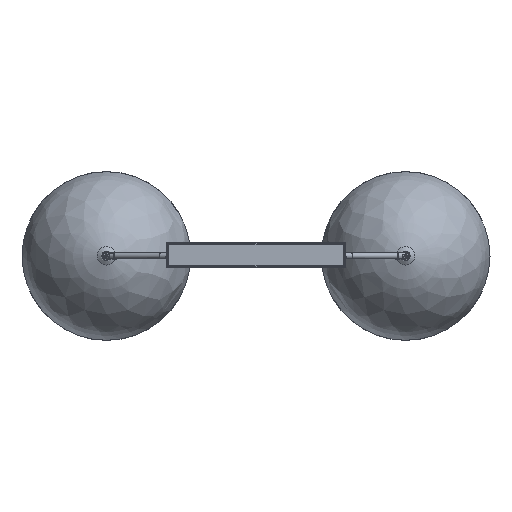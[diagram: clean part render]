
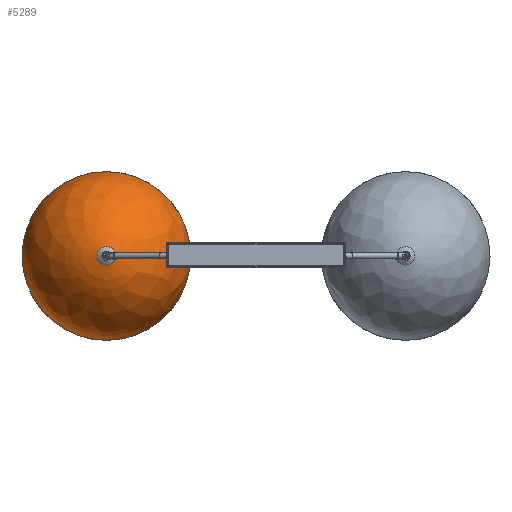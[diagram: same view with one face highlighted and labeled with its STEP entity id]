
A CAD part, top view. The second image highlights one B-rep face of the part: STEP entity #5289.
In plain terms, the highlighted free-form (B-spline) face has degree [2, 2] with [3, 9] control points.
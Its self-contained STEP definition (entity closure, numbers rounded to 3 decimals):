
#398=(
BOUNDED_SURFACE()
B_SPLINE_SURFACE(2,2,((#7663,#7664,#7665,#7666,#7667,#7668,#7669,#7670,
#7671),(#7672,#7673,#7674,#7675,#7676,#7677,#7678,#7679,#7680),(#7681,#7682,
#7683,#7684,#7685,#7686,#7687,#7688,#7689)),.UNSPECIFIED.,.F.,.T.,.F.)
B_SPLINE_SURFACE_WITH_KNOTS((3,3),(3,2,2,2,3),(-1.338,-0.124),
(-3.142,-1.571,0.,1.571,3.142),
 .UNSPECIFIED.)
GEOMETRIC_REPRESENTATION_ITEM()
RATIONAL_B_SPLINE_SURFACE(((1.,0.707,1.,0.707,1.,
0.707,1.,0.707,1.),(0.821,0.581,
0.821,0.581,0.821,0.581,
0.821,0.581,0.821),(1.,0.707,
1.,0.707,1.,0.707,1.,0.707,1.)))
REPRESENTATION_ITEM('')
SURFACE()
);
#1315=FACE_OUTER_BOUND('',#1632,.T.);
#1632=EDGE_LOOP('',(#3560,#3561,#3562,#3563));
#1983=CIRCLE('',#5749,8.791);
#1984=CIRCLE('',#5750,205.02);
#1985=CIRCLE('',#5751,165.);
#2151=VERTEX_POINT('',#7660);
#2152=VERTEX_POINT('',#7690);
#2730=EDGE_CURVE('',#2151,#2151,#1983,.T.);
#2731=EDGE_CURVE('',#2151,#2152,#1984,.T.);
#2732=EDGE_CURVE('',#2152,#2152,#1985,.T.);
#3560=ORIENTED_EDGE('',*,*,#2730,.T.);
#3561=ORIENTED_EDGE('',*,*,#2731,.T.);
#3562=ORIENTED_EDGE('',*,*,#2732,.F.);
#3563=ORIENTED_EDGE('',*,*,#2731,.F.);
#5289=ADVANCED_FACE('',(#1315),#398,.F.);
#5749=AXIS2_PLACEMENT_3D('',#7662,#6278,#6279);
#5750=AXIS2_PLACEMENT_3D('',#7691,#6280,#6281);
#5751=AXIS2_PLACEMENT_3D('',#7692,#6282,#6283);
#6278=DIRECTION('center_axis',(0.,0.,-1.));
#6279=DIRECTION('ref_axis',(1.,0.,0.));
#6280=DIRECTION('center_axis',(0.,1.,0.));
#6281=DIRECTION('ref_axis',(1.,0.,0.));
#6282=DIRECTION('center_axis',(0.,0.,-1.));
#6283=DIRECTION('ref_axis',(1.,0.,0.));
#7660=CARTESIAN_POINT('',(8.791,0.,174.101));
#7662=CARTESIAN_POINT('Origin',(0.,0.,174.101));
#7663=CARTESIAN_POINT('Ctrl Pts',(8.791,0.,
174.101));
#7664=CARTESIAN_POINT('Ctrl Pts',(8.791,-8.791,174.101));
#7665=CARTESIAN_POINT('Ctrl Pts',(0.,-8.791,
174.101));
#7666=CARTESIAN_POINT('Ctrl Pts',(-8.791,-8.791,174.101));
#7667=CARTESIAN_POINT('Ctrl Pts',(-8.791,0.,
174.101));
#7668=CARTESIAN_POINT('Ctrl Pts',(-8.791,8.791,174.101));
#7669=CARTESIAN_POINT('Ctrl Pts',(0.,8.791,
174.101));
#7670=CARTESIAN_POINT('Ctrl Pts',(8.791,8.791,174.101));
#7671=CARTESIAN_POINT('Ctrl Pts',(8.791,0.,
174.101));
#7672=CARTESIAN_POINT('Ctrl Pts',(147.356,0.,
141.297));
#7673=CARTESIAN_POINT('Ctrl Pts',(147.356,-147.356,141.297));
#7674=CARTESIAN_POINT('Ctrl Pts',(0.,-147.356,
141.297));
#7675=CARTESIAN_POINT('Ctrl Pts',(-147.356,-147.356,141.297));
#7676=CARTESIAN_POINT('Ctrl Pts',(-147.356,0.,
141.297));
#7677=CARTESIAN_POINT('Ctrl Pts',(-147.356,147.356,141.297));
#7678=CARTESIAN_POINT('Ctrl Pts',(0.,147.356,
141.297));
#7679=CARTESIAN_POINT('Ctrl Pts',(147.356,147.356,141.297));
#7680=CARTESIAN_POINT('Ctrl Pts',(147.356,0.,
141.297));
#7681=CARTESIAN_POINT('Ctrl Pts',(165.,0.,0.));
#7682=CARTESIAN_POINT('Ctrl Pts',(165.,-165.,0.));
#7683=CARTESIAN_POINT('Ctrl Pts',(0.,-165.,0.));
#7684=CARTESIAN_POINT('Ctrl Pts',(-165.,-165.,0.));
#7685=CARTESIAN_POINT('Ctrl Pts',(-165.,0.,0.));
#7686=CARTESIAN_POINT('Ctrl Pts',(-165.,165.,0.));
#7687=CARTESIAN_POINT('Ctrl Pts',(0.,165.,0.));
#7688=CARTESIAN_POINT('Ctrl Pts',(165.,165.,0.));
#7689=CARTESIAN_POINT('Ctrl Pts',(165.,0.,0.));
#7690=CARTESIAN_POINT('',(165.,0.,0.));
#7691=CARTESIAN_POINT('Origin',(-38.439,0.,
-25.404));
#7692=CARTESIAN_POINT('Origin',(0.,0.,0.));
